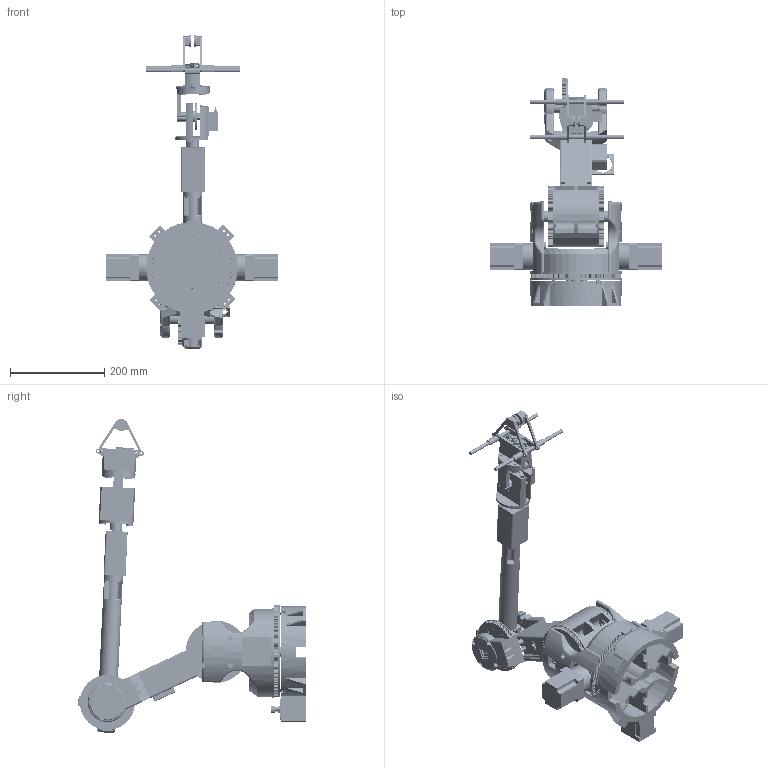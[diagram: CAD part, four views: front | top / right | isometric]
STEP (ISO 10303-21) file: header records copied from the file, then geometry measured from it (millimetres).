
FILE_DESCRIPTION (( 'STEP AP214' ), '1' );
FILE_NAME ('ERA Assembly.STEP', '2023-06-16T19:18:07', ( '' ), ( '' ), 'SwSTEP 2.0', 'SolidWorks 2023', '' );
FILE_SCHEMA (( 'AUTOMOTIVE_DESIGN' ));
Length unit declared in the file: millimetre
Products named in the file (34): Belt Tensor; Chess Gripper; Nema 23 10-1 Gearbox; Nema 17 59N.cm; MG996R_Servo; 35Kg.cm Servo; Nema 23 1.26Nm; ERA Assembly; Bearing Mount - Gripper; Rail Rider; J2 Bearing Mount; Bearing Attachment For Base; 20-1 Pulley Wheel; MG996R_Horn; Wrist Roll; J1; 35Kg.cm Servo Arm Attachment; Nema 17 27-1 Gearbox; 4x10x4mm Bearing; 20x47x14mm Bearing; Top Base; J2; Horn to Rider Connector NUT; Timing Belt Idler Pulley; 35Kg.cm Servo Arm; Nema 17 5-1 Gearbox; Wrist Pitch Mount; J1 Base; Rail Rider (Right); Servo Shell; Wrist Pitch; Bottom Base; J2 Sync Wheel; Horn to Rider Connector
Assembly tree (63 placements, depth 3):
  ERA Assembly
    Nema 23 1.26Nm  x2
    Nema 23 10-1 Gearbox  x2
    20-1 Pulley Wheel  x2
    Nema 17 59N.cm  x3
    Nema 17 5-1 Gearbox
    Belt Tensor  x2
    Timing Belt Idler Pulley  x2
    Bottom Base
    Top Base
    20x47x14mm Bearing  x6
    4x10x4mm Bearing  x16
    J1 Base
    Bearing Attachment For Base  x2
    J1
    J2
    J2 Bearing Mount
    J2 Sync Wheel
    Wrist Roll
    35Kg.cm Servo Arm
    35Kg.cm Servo Arm Attachment
    35Kg.cm Servo
    Bearing Mount - Gripper
    Wrist Pitch Mount
    Nema 17 27-1 Gearbox
    Wrist Pitch
    Chess Gripper
      MG996R_Servo
      MG996R_Horn
      Servo Shell
      Rail Rider
      Rail Rider (Right)
      Horn to Rider Connector  x2
      Horn to Rider Connector NUT  x2
Bounding box: 367 x 482.94 x 666.17 mm (x, y, z)
Volume: 5619756.4 mm3; surface area: 1125124.4 mm2
Topology: 208 solids, 208 shells, 13209 faces, 37532 edges, 25029 vertices
Faces by surface type: cylinder 7963, plane 5040, torus 98, bspline 80, sphere 18, cone 10
Entity records: 407975 total; most frequent: CARTESIAN_POINT 101807, DIRECTION 66323, ORIENTED_EDGE 64636, EDGE_CURVE 32318, AXIS2_PLACEMENT_3D 24366, VERTEX_POINT 21558, LINE 17591, VECTOR 17591
